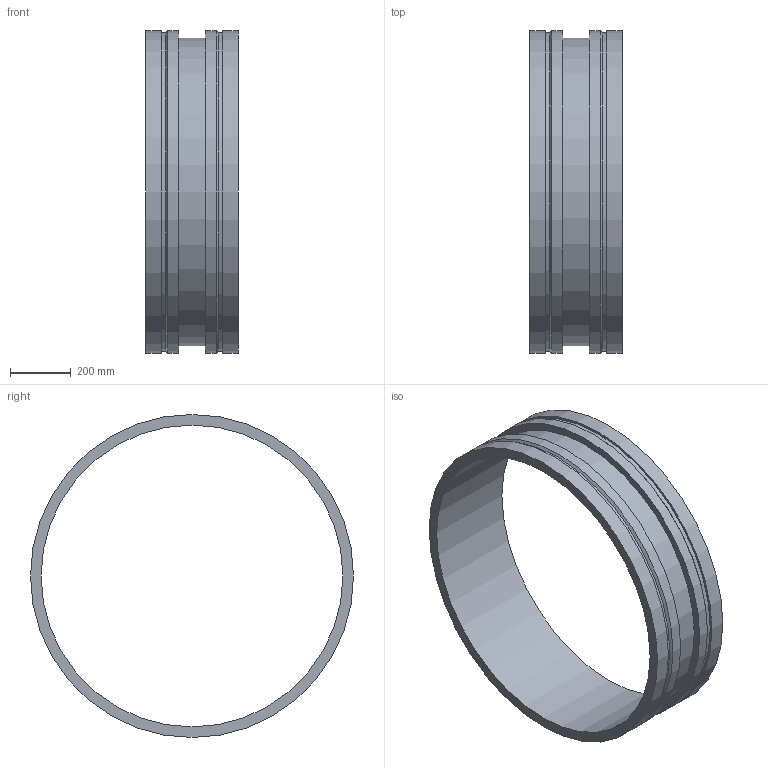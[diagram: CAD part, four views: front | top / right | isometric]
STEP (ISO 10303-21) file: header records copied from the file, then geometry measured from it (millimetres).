
FILE_DESCRIPTION(/* description */ ('VIC ADAPTER NIPPLE No W43 VR','CAx-IF Rec.Pracs.---Representation and Presentation of Product Manufacturing Information (PMI)---4.0---2014-10-13'),/* implementation_level */ '2;1');
FILE_NAME(/* name */ 'C:\Users\kkamble\AppData\Roaming\Autodesk\ApplicationPlugins\Back Up\Victaulic_Vic-Ring_Adapter Nipple_No W43 VR (AGR)\Victaulic_Vic-Ring_Adapter Nipple_No W43 VR (AGR)_40 (1000).stp',/* time_stamp */ '2020-09-10T11:31:44+05:00',/* author */ ('cps_temp'),/* organization */ ('Victaulic'),/* preprocessor_version */ 'ST-DEVELOPER v17.2',/* originating_system */ 'Autodesk Inventor 2019',/* authorisation */ '');
FILE_SCHEMA (('AP242_MANAGED_MODEL_BASED_3D_ENGINEERING_MIM_LF { 1 0 10303 442 1 1 4 }'));
Length unit declared in the file: inch
Products named in the file (1): W43 VR-40.0
Bounding box: 304.8 x 1066.8 x 1066.8 mm (x, y, z)
Volume: 26190956.7 mm3; surface area: 2430283.7 mm2
Topology: 1 solids, 1 shells, 16 faces, 42 edges, 32 vertices
Faces by surface type: cylinder 8, plane 6, cone 2
Full cylindrical faces by diameter (mm): 996.95 x1, 1016 x1, 1050.925 x2, 1066.8 x4
Entity records: 686 total; most frequent: DIRECTION 134, CARTESIAN_POINT 108, ORIENTED_EDGE 84, AXIS2_PLACEMENT_3D 62, EDGE_CURVE 42, CIRCLE 32, VERTEX_POINT 32, EDGE_LOOP 22
